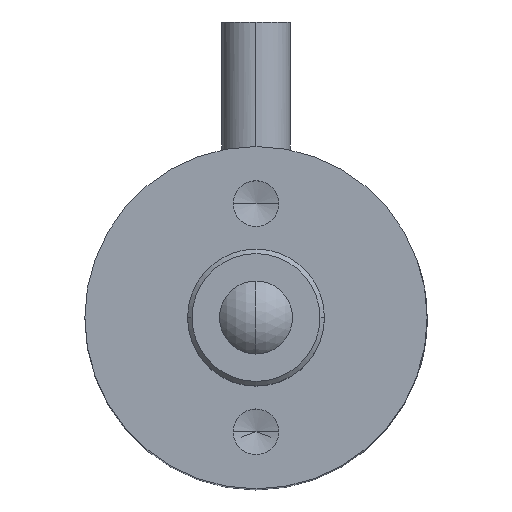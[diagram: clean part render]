
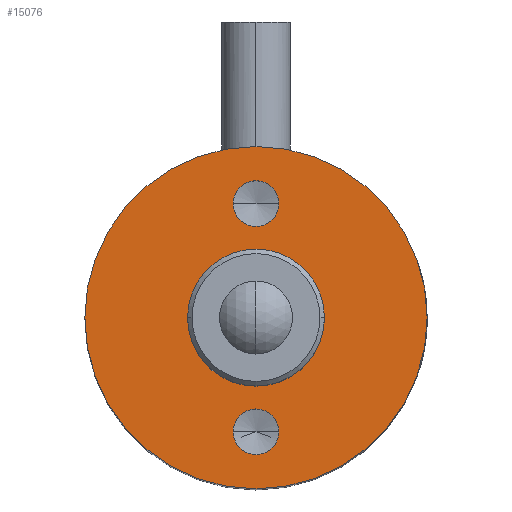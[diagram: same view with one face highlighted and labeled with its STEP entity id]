
A CAD part, top view. The second image highlights one B-rep face of the part: STEP entity #15076.
In plain terms, the highlighted planar face has unit normal (0, 0, 1).
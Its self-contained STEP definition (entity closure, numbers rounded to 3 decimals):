
#641 = CIRCLE ( 'NONE', #22498, 3. ) ;
#1152 = DIRECTION ( 'NONE',  ( 1., 0., 0. ) ) ;
#1327 = DIRECTION ( 'NONE',  ( 0., 0., 1. ) ) ;
#4176 = AXIS2_PLACEMENT_3D ( 'NONE', #39917, #1327, #33828 ) ;
#4451 = DIRECTION ( 'NONE',  ( 0., 0., 1. ) ) ;
#4829 = CARTESIAN_POINT ( 'NONE',  ( 0., 5., 28.5 ) ) ;
#6701 = VERTEX_POINT ( 'NONE', #30727 ) ;
#6881 = CARTESIAN_POINT ( 'NONE',  ( 3., 0., 28.5 ) ) ;
#6997 = VERTEX_POINT ( 'NONE', #29268 ) ;
#7180 = FACE_BOUND ( 'NONE', #15519, .T. ) ;
#7926 = DIRECTION ( 'NONE',  ( 0., 0., 1. ) ) ;
#8165 = VERTEX_POINT ( 'NONE', #30709 ) ;
#8212 = CARTESIAN_POINT ( 'NONE',  ( 0., 0., 28.5 ) ) ;
#9799 = VERTEX_POINT ( 'NONE', #25041 ) ;
#10158 = DIRECTION ( 'NONE',  ( 1., 0., 0. ) ) ;
#10583 = CARTESIAN_POINT ( 'NONE',  ( 1., -5., 28.5 ) ) ;
#10687 = CARTESIAN_POINT ( 'NONE',  ( 0., 0., 28.5 ) ) ;
#11017 = EDGE_LOOP ( 'NONE', ( #23218, #26952 ) ) ;
#11795 = CARTESIAN_POINT ( 'NONE',  ( -1., -5., 28.5 ) ) ;
#11883 = ORIENTED_EDGE ( 'NONE', *, *, #20231, .F. ) ;
#14971 = EDGE_LOOP ( 'NONE', ( #32088, #11883 ) ) ;
#15076 = ADVANCED_FACE ( 'NONE', ( #19755, #7180, #16260, #26292 ), #24240, .T. ) ;
#15519 = EDGE_LOOP ( 'NONE', ( #31821, #24026 ) ) ;
#16260 = FACE_BOUND ( 'NONE', #11017, .T. ) ;
#17847 = EDGE_CURVE ( 'NONE', #20559, #40199, #641, .T. ) ;
#18414 = DIRECTION ( 'NONE',  ( 1., 0., 0. ) ) ;
#18736 = AXIS2_PLACEMENT_3D ( 'NONE', #25331, #38491, #28591 ) ;
#19742 = DIRECTION ( 'NONE',  ( 1., 0., 0. ) ) ;
#19755 = FACE_BOUND ( 'NONE', #14971, .T. ) ;
#20012 = DIRECTION ( 'NONE',  ( 0., 0., 1. ) ) ;
#20141 = AXIS2_PLACEMENT_3D ( 'NONE', #23271, #20012, #19742 ) ;
#20231 = EDGE_CURVE ( 'NONE', #36756, #25622, #38405, .T. ) ;
#20559 = VERTEX_POINT ( 'NONE', #27702 ) ;
#21648 = DIRECTION ( 'NONE',  ( 0., 0., 1. ) ) ;
#22498 = AXIS2_PLACEMENT_3D ( 'NONE', #24869, #21648, #18414 ) ;
#22789 = EDGE_CURVE ( 'NONE', #40199, #20559, #24216, .T. ) ;
#23218 = ORIENTED_EDGE ( 'NONE', *, *, #17847, .F. ) ;
#23271 = CARTESIAN_POINT ( 'NONE',  ( 0., -5., 28.5 ) ) ;
#23671 = CIRCLE ( 'NONE', #39949, 1. ) ;
#24026 = ORIENTED_EDGE ( 'NONE', *, *, #25583, .F. ) ;
#24216 = CIRCLE ( 'NONE', #4176, 3. ) ;
#24240 = PLANE ( 'NONE',  #32995 ) ;
#24869 = CARTESIAN_POINT ( 'NONE',  ( 0., 0., 28.5 ) ) ;
#25041 = CARTESIAN_POINT ( 'NONE',  ( -7.5, 0., 28.5 ) ) ;
#25331 = CARTESIAN_POINT ( 'NONE',  ( 0., -5., 28.5 ) ) ;
#25583 = EDGE_CURVE ( 'NONE', #6701, #8165, #27193, .T. ) ;
#25622 = VERTEX_POINT ( 'NONE', #10583 ) ;
#26292 = FACE_OUTER_BOUND ( 'NONE', #38300, .T. ) ;
#26952 = ORIENTED_EDGE ( 'NONE', *, *, #22789, .F. ) ;
#27193 = CIRCLE ( 'NONE', #29005, 1. ) ;
#27214 = DIRECTION ( 'NONE',  ( 1., 0., 0. ) ) ;
#27702 = CARTESIAN_POINT ( 'NONE',  ( -3., 0., 28.5 ) ) ;
#28261 = EDGE_CURVE ( 'NONE', #25622, #36756, #36800, .T. ) ;
#28591 = DIRECTION ( 'NONE',  ( 1., 0., 0. ) ) ;
#29005 = AXIS2_PLACEMENT_3D ( 'NONE', #36074, #36229, #10158 ) ;
#29268 = CARTESIAN_POINT ( 'NONE',  ( 7.5, 0., 28.5 ) ) ;
#30409 = DIRECTION ( 'NONE',  ( 1., 0., 0. ) ) ;
#30552 = CARTESIAN_POINT ( 'NONE',  ( 0., 0., 28.5 ) ) ;
#30709 = CARTESIAN_POINT ( 'NONE',  ( 1., 5., 28.5 ) ) ;
#30711 = DIRECTION ( 'NONE',  ( 1., 0., 0. ) ) ;
#30727 = CARTESIAN_POINT ( 'NONE',  ( -1., 5., 28.5 ) ) ;
#31821 = ORIENTED_EDGE ( 'NONE', *, *, #33225, .F. ) ;
#32088 = ORIENTED_EDGE ( 'NONE', *, *, #28261, .F. ) ;
#32599 = AXIS2_PLACEMENT_3D ( 'NONE', #10687, #4451, #1152 ) ;
#32995 = AXIS2_PLACEMENT_3D ( 'NONE', #8212, #37231, #30711 ) ;
#33225 = EDGE_CURVE ( 'NONE', #8165, #6701, #23671, .T. ) ;
#33828 = DIRECTION ( 'NONE',  ( 1., 0., 0. ) ) ;
#33958 = ORIENTED_EDGE ( 'NONE', *, *, #36519, .T. ) ;
#34129 = ORIENTED_EDGE ( 'NONE', *, *, #39617, .T. ) ;
#35105 = AXIS2_PLACEMENT_3D ( 'NONE', #30552, #7926, #30409 ) ;
#36074 = CARTESIAN_POINT ( 'NONE',  ( 0., 5., 28.5 ) ) ;
#36229 = DIRECTION ( 'NONE',  ( 0., 0., 1. ) ) ;
#36519 = EDGE_CURVE ( 'NONE', #9799, #6997, #36758, .T. ) ;
#36718 = DIRECTION ( 'NONE',  ( 0., 0., 1. ) ) ;
#36756 = VERTEX_POINT ( 'NONE', #11795 ) ;
#36758 = CIRCLE ( 'NONE', #32599, 7.5 ) ;
#36800 = CIRCLE ( 'NONE', #20141, 1. ) ;
#37231 = DIRECTION ( 'NONE',  ( 0., 0., 1. ) ) ;
#37718 = CIRCLE ( 'NONE', #35105, 7.5 ) ;
#38300 = EDGE_LOOP ( 'NONE', ( #33958, #34129 ) ) ;
#38405 = CIRCLE ( 'NONE', #18736, 1. ) ;
#38491 = DIRECTION ( 'NONE',  ( 0., 0., 1. ) ) ;
#39617 = EDGE_CURVE ( 'NONE', #6997, #9799, #37718, .T. ) ;
#39917 = CARTESIAN_POINT ( 'NONE',  ( 0., 0., 28.5 ) ) ;
#39949 = AXIS2_PLACEMENT_3D ( 'NONE', #4829, #36718, #27214 ) ;
#40199 = VERTEX_POINT ( 'NONE', #6881 ) ;
